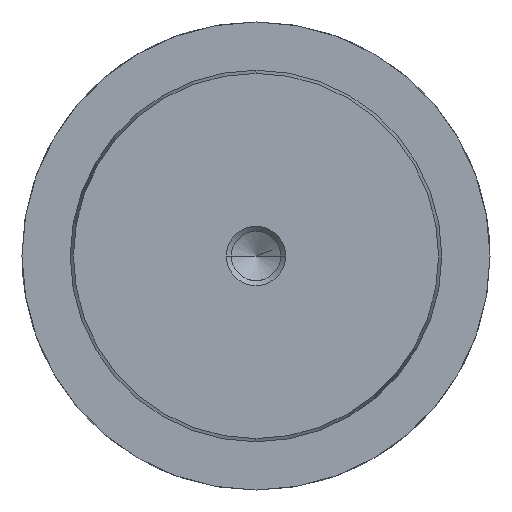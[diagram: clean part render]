
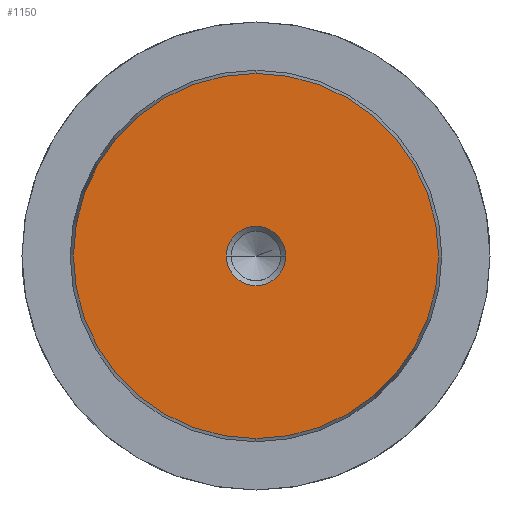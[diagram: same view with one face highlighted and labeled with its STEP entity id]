
A CAD part, left-side view. The second image highlights one B-rep face of the part: STEP entity #1150.
In plain terms, the highlighted planar face has unit normal (-1, 0, 0).
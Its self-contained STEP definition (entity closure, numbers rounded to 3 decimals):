
#1064=CARTESIAN_POINT('Vertex',(0.,0.,-24.578)) ;
#1067=CARTESIAN_POINT('Axis2P3D Location',(0.,0.,0.)) ;
#1071=CARTESIAN_POINT('Vertex',(0.,24.578,0.)) ;
#1074=CARTESIAN_POINT('Axis2P3D Location',(0.,0.,0.)) ;
#1078=CARTESIAN_POINT('Vertex',(0.,0.,24.578)) ;
#1100=CARTESIAN_POINT('Axis2P3D Location',(0.,0.,0.)) ;
#1104=CARTESIAN_POINT('Vertex',(0.,-24.578,0.)) ;
#1107=CARTESIAN_POINT('Axis2P3D Location',(0.,0.,0.)) ;
#1121=CARTESIAN_POINT('Axis2P3D Location',(0.,0.,0.)) ;
#1132=CARTESIAN_POINT('Axis2P3D Location',(0.,0.,0.)) ;
#1136=CARTESIAN_POINT('Vertex',(0.,4.,0.)) ;
#1138=CARTESIAN_POINT('Vertex',(0.,-4.,0.)) ;
#1141=CARTESIAN_POINT('Axis2P3D Location',(0.,0.,0.)) ;
#1068=DIRECTION('Axis2P3D Direction',(1.,0.,-0.)) ;
#1075=DIRECTION('Axis2P3D Direction',(1.,0.,-0.)) ;
#1101=DIRECTION('Axis2P3D Direction',(1.,0.,-0.)) ;
#1108=DIRECTION('Axis2P3D Direction',(1.,0.,-0.)) ;
#1122=DIRECTION('Axis2P3D Direction',(1.,0.,-0.)) ;
#1123=DIRECTION('Axis2P3D XDirection',(-0.,0.,-1.)) ;
#1133=DIRECTION('Axis2P3D Direction',(1.,0.,-0.)) ;
#1142=DIRECTION('Axis2P3D Direction',(1.,0.,-0.)) ;
#1069=AXIS2_PLACEMENT_3D('Circle Axis2P3D',#1067,#1068,$) ;
#1076=AXIS2_PLACEMENT_3D('Circle Axis2P3D',#1074,#1075,$) ;
#1102=AXIS2_PLACEMENT_3D('Circle Axis2P3D',#1100,#1101,$) ;
#1109=AXIS2_PLACEMENT_3D('Circle Axis2P3D',#1107,#1108,$) ;
#1124=AXIS2_PLACEMENT_3D('Plane Axis2P3D',#1121,#1122,#1123) ;
#1134=AXIS2_PLACEMENT_3D('Circle Axis2P3D',#1132,#1133,$) ;
#1143=AXIS2_PLACEMENT_3D('Circle Axis2P3D',#1141,#1142,$) ;
#1127=ORIENTED_EDGE('',*,*,#1073,.F.) ;
#1128=ORIENTED_EDGE('',*,*,#1111,.F.) ;
#1129=ORIENTED_EDGE('',*,*,#1106,.F.) ;
#1130=ORIENTED_EDGE('',*,*,#1080,.F.) ;
#1147=ORIENTED_EDGE('',*,*,#1140,.T.) ;
#1148=ORIENTED_EDGE('',*,*,#1145,.T.) ;
#1149=FACE_BOUND('',#1146,.T.) ;
#1150=ADVANCED_FACE('718-50x180',(#1131,#1149),#1125,.F.) ;
#1070=CIRCLE('generated circle',#1069,24.578) ;
#1077=CIRCLE('generated circle',#1076,24.578) ;
#1103=CIRCLE('generated circle',#1102,24.578) ;
#1110=CIRCLE('generated circle',#1109,24.578) ;
#1135=CIRCLE('generated circle',#1134,4.) ;
#1144=CIRCLE('generated circle',#1143,4.) ;
#1073=EDGE_CURVE('',#1065,#1072,#1070,.T.) ;
#1080=EDGE_CURVE('',#1072,#1079,#1077,.T.) ;
#1106=EDGE_CURVE('',#1079,#1105,#1103,.T.) ;
#1111=EDGE_CURVE('',#1105,#1065,#1110,.T.) ;
#1140=EDGE_CURVE('',#1137,#1139,#1135,.T.) ;
#1145=EDGE_CURVE('',#1139,#1137,#1144,.T.) ;
#1126=EDGE_LOOP('',(#1127,#1128,#1129,#1130)) ;
#1146=EDGE_LOOP('',(#1147,#1148)) ;
#1131=FACE_OUTER_BOUND('',#1126,.T.) ;
#1125=PLANE('Plane',#1124) ;
#1065=VERTEX_POINT('',#1064) ;
#1072=VERTEX_POINT('',#1071) ;
#1079=VERTEX_POINT('',#1078) ;
#1105=VERTEX_POINT('',#1104) ;
#1137=VERTEX_POINT('',#1136) ;
#1139=VERTEX_POINT('',#1138) ;
